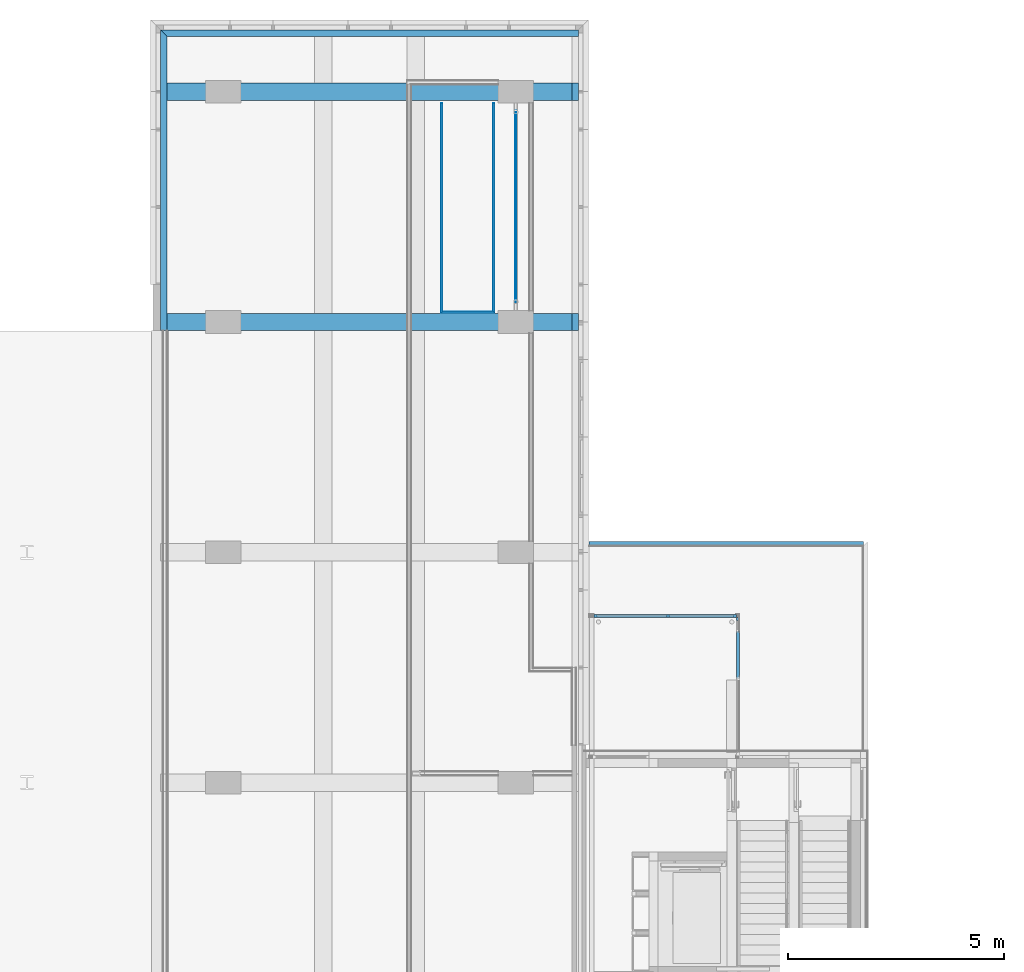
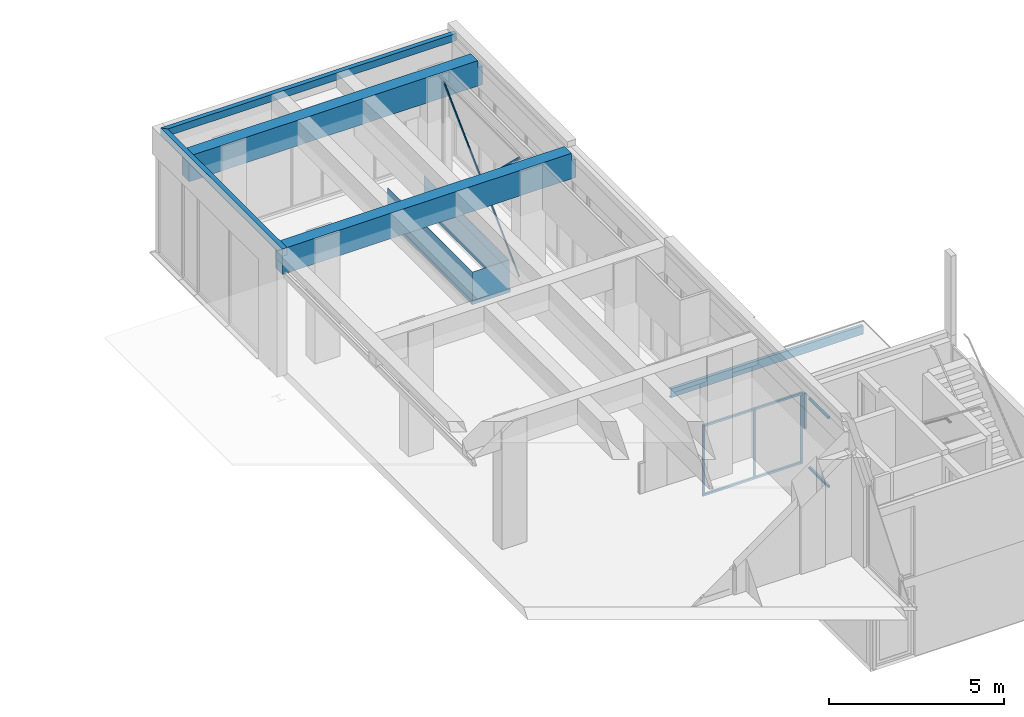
# One storey, part 28 of 117: 16 members, 7 beams, 3 elements without a shape of their own.
"""IFC2X3 building model written with IfcOpenShell, lengths in millimetres."""

import ifcopenshell
import ifcopenshell.guid

model = None  # the IFC model being written
_history = None  # IfcOwnerHistory: only IFC2X3 demands one
_inside = {}  # id of a spatial element -> (the spatial element, [elements in it])
_under = {}  # id of a project, library or spatial element -> (it, [spatial elements below it])
_declared = {}  # id of a project -> (the project, [libraries it declares])
_typed = {}  # id of a type object -> (the type object, [elements of that type])
_made_of = {}  # id of a material, layer set ... -> (it, [elements and type objects made of it])


def new_model(schema):
    """Start an empty IFC model of exactly this schema.

    Asked for "IFC4X3", IfcOpenShell would pick the latest addendum, in which some entities
    have other attributes; the version numbers below select the first issue.
    IFC2X3 requires an IfcOwnerHistory on every rooted entity: one is made here for all.
    """
    global model, _history
    if schema == "IFC4X3":
        model = ifcopenshell.file(schema_version=(4, 3, 0, 0))
    else:
        model = ifcopenshell.file(schema=schema)
    _inside.clear()
    _under.clear()
    _declared.clear()
    _typed.clear()
    _made_of.clear()
    _history = None
    if model.schema == "IFC2X3":
        org = make("IfcOrganization", Name="unknown")
        user = make(
            "IfcPersonAndOrganization",
            ThePerson=make("IfcPerson", FamilyName="unknown"),
            TheOrganization=org,
        )
        app = make(
            "IfcApplication",
            ApplicationDeveloper=org,
            Version="unknown",
            ApplicationFullName="unknown",
            ApplicationIdentifier="unknown",
        )
        _history = make(
            "IfcOwnerHistory",
            OwningUser=user,
            OwningApplication=app,
            ChangeAction="ADDED",
            CreationDate=0,
        )
    return model


def make(cls, **values):
    """One entity of the class cls with the attributes given. An attribute that is None is left unset."""
    return model.create_entity(
        cls, **{name: value for name, value in values.items() if value is not None}
    )


def entity(cls, *values):
    """Any entity or typed value of the class cls, its attributes in the order of the schema. None: left unset."""
    e = model.create_entity(cls)
    for i, value in enumerate(values):
        if value is not None:
            e[i] = value
    return e


def rooted(cls, **values):
    """An entity with a GlobalId (a new one), such as an element, a storey or a relation."""
    return make(cls, GlobalId=ifcopenshell.guid.new(), OwnerHistory=_history, **values)


def si_unit(unit_type, name, prefix=None):
    """IfcSIUnit, for example si_unit("LENGTHUNIT", "METRE", prefix="MILLI")."""
    return make("IfcSIUnit", UnitType=unit_type, Prefix=prefix, Name=name)


def converted_unit(unit_type, name, factor, base, dimensions=None, offset=None):
    """IfcConversionBasedUnit, such as the inch: factor (a typed value) times the base unit."""
    return make(
        "IfcConversionBasedUnit"
        if offset is None
        else "IfcConversionBasedUnitWithOffset",
        ConversionOffset=offset,
        Dimensions=None
        if dimensions is None
        else entity("IfcDimensionalExponents", *dimensions),
        UnitType=unit_type,
        Name=name,
        ConversionFactor=make(
            "IfcMeasureWithUnit", ValueComponent=factor, UnitComponent=base
        ),
    )


def derived_unit(unit_type, elements):
    """IfcDerivedUnit: a product of units, each with its exponent."""
    return make(
        "IfcDerivedUnit",
        Elements=[
            make("IfcDerivedUnitElement", Unit=unit, Exponent=power)
            for unit, power in elements
        ],
        UnitType=unit_type,
    )


def money_unit(currency):
    """IfcMonetaryUnit."""
    return make("IfcMonetaryUnit", Currency=currency)


def assignment(units):
    """IfcUnitAssignment: the units of a project."""
    return None if units is None else make("IfcUnitAssignment", Units=units)


def point(xyz):
    """IfcCartesianPoint."""
    return None if xyz is None else make("IfcCartesianPoint", Coordinates=xyz)


def direction(xyz):
    """IfcDirection."""
    return None if xyz is None else make("IfcDirection", DirectionRatios=xyz)


def frame(location, z_axis=None, x_axis=None):
    """IfcAxis2Placement3D, a coordinate frame: its origin and axes. An axis left out is left unset."""
    return make(
        "IfcAxis2Placement3D",
        Location=point(location),
        Axis=direction(z_axis),
        RefDirection=direction(x_axis),
    )


def origin_with_axes():
    """The frame at (0, 0, 0) with the z axis (0, 0, 1) and the x axis (1, 0, 0) written out."""
    return frame((0.0, 0.0, 0.0), z_axis=(0.0, 0.0, 1.0), x_axis=(1.0, 0.0, 0.0))


def place(relative_to, where):
    """IfcLocalPlacement: puts the frame where relative to a parent placement (None: the world)."""
    return make(
        "IfcLocalPlacement", PlacementRelTo=relative_to, RelativePlacement=where
    )


def context(
    kind, dimensions, precision=None, world=None, true_north=None, identifier=None
):
    """IfcGeometricRepresentationContext, for example the 3D "Model" context."""
    return make(
        "IfcGeometricRepresentationContext",
        ContextIdentifier=identifier,
        ContextType=kind,
        CoordinateSpaceDimension=dimensions,
        Precision=precision,
        WorldCoordinateSystem=world,
        TrueNorth=true_north,
    )


def subcontext(parent, identifier, kind, view, scale=None):
    """IfcGeometricRepresentationSubContext, for example "Body" below "Model"."""
    return make(
        "IfcGeometricRepresentationSubContext",
        ContextIdentifier=identifier,
        ContextType=kind,
        ParentContext=parent,
        TargetScale=scale,
        TargetView=view,
    )


def project(units=None, contexts=None):
    """IfcProject with its units and contexts."""
    return rooted(
        "IfcProject",
        Name="project",
        RepresentationContexts=contexts,
        UnitsInContext=assignment(units),
    )


def spatial(cls, under=None, at=None, **own):
    """A site, building, storey or space (cls), placed at a placement, below another one or the project."""
    s = rooted(cls, ObjectPlacement=at, **own)
    if under is not None:
        _under.setdefault(under.id(), (under, []))[1].append(s)
    return s


def faces_of(points, faces, orient=None, outer=None):
    """IfcFace entities. A face is a list of loops; a loop is a list of indices into points, from 0.

    orient and outer hold one flag for each loop. By default every Orientation is true, the
    first loop of a face is its IfcFaceOuterBound and the others are IfcFaceBound.
    """
    made = []
    for i, loops in enumerate(faces):
        bounds = []
        for j, loop in enumerate(loops):
            is_outer = j == 0 if outer is None else outer[i][j]
            bounds.append(
                make(
                    "IfcFaceOuterBound" if is_outer else "IfcFaceBound",
                    Bound=make("IfcPolyLoop", Polygon=[points[k] for k in loop]),
                    Orientation=True if orient is None else orient[i][j],
                )
            )
        made.append(make("IfcFace", Bounds=bounds))
    return made


def faceted_brep(points, faces, orient=None, outer=None, voids=None):
    """IfcFacetedBrep: a solid bounded by flat faces; with voids (closed shells), ...WithVoids."""
    shared = [point(p) for p in points]
    hull = make("IfcClosedShell", CfsFaces=faces_of(shared, faces, orient, outer))
    if voids is None:
        return make("IfcFacetedBrep", Outer=hull)
    return make(
        "IfcFacetedBrepWithVoids",
        Outer=hull,
        Voids=[
            make(cls, CfsFaces=faces_of(shared, fs, o, b)) for cls, fs, o, b in voids
        ],
    )


def shape(context_of_items, identifier, shape_type, items):
    """IfcShapeRepresentation: the items that make up one representation, for example the "Body"."""
    return make(
        "IfcShapeRepresentation",
        ContextOfItems=context_of_items,
        RepresentationIdentifier=identifier,
        RepresentationType=shape_type,
        Items=items,
    )


def material(Name=None, Category=None):
    """IfcMaterial."""
    return make("IfcMaterial", Name=Name, Category=Category)


def made_of(thing, what):
    """Note that an element or type object is made of a material, layer set ...; save() writes the relation."""
    if what is not None:
        _made_of.setdefault(what.id(), (what, []))[1].append(thing)
    return thing


def type_object(cls, material=None, **own):
    """A type object (cls), such as IfcWallType, which elements share."""
    return made_of(rooted(cls, **own), material)


def element(
    cls,
    number,
    at=None,
    inside=None,
    cuts=None,
    type_object=None,
    material=None,
    context=None,
    identifier="Body",
    shape_type=None,
    held_by="IfcProductDefinitionShape",
    body=None,
    shapes=None,
    **own,
):
    """One element of the class cls, such as IfcWall. Its Tag is "e" and its number.

    at: its placement. inside: the storey or other place that contains it. cuts: it is an
    opening in that element (IfcRelVoidsElement). A single representation is given by context,
    identifier, shape_type and body (its items); several are given by shapes. held_by: the class
    of the entity that holds the representations. save() writes the other relations.
    """
    e = rooted(cls, Tag="e%d" % number, ObjectPlacement=at, **own)
    if body is not None:
        shapes = [shape(context, identifier, shape_type, body)]
    if shapes is not None:
        e.Representation = make(held_by, Representations=shapes)
    if inside is not None:
        _inside.setdefault(inside.id(), (inside, []))[1].append(e)
    if cuts is not None:
        rooted(
            "IfcRelVoidsElement", RelatingBuildingElement=cuts, RelatedOpeningElement=e
        )
    if type_object is not None:
        _typed.setdefault(type_object.id(), (type_object, []))[1].append(e)
    return made_of(e, material)


def aggregate(whole, parts):
    """IfcRelAggregates: a whole, such as a stair, and the parts it consists of."""
    return rooted("IfcRelAggregates", RelatingObject=whole, RelatedObjects=parts)


def save(model, path):
    """Write the relations noted so far, then the file.

    IfcRelAggregates (storeys below a building ...), IfcRelContainedInSpatialStructure (elements
    in a storey), IfcRelDefinesByType, IfcRelAssociatesMaterial and IfcRelDeclares: one each for
    every whole, place, type object, material and project.
    """
    for whole, parts in _under.values():
        aggregate(whole, parts)
    for where, things in _inside.values():
        rooted(
            "IfcRelContainedInSpatialStructure",
            RelatedElements=things,
            RelatingStructure=where,
        )
    for kind, things in _typed.values():
        rooted("IfcRelDefinesByType", RelatedObjects=things, RelatingType=kind)
    for what, things in _made_of.values():
        rooted("IfcRelAssociatesMaterial", RelatedObjects=things, RelatingMaterial=what)
    for by, libraries in _declared.values():
        rooted("IfcRelDeclares", RelatingContext=by, RelatedDefinitions=libraries)
    model.write(path)


model = new_model("IFC2X3")

# Units and contexts
model_context = context("Model", 3, precision=0.01, world=origin_with_axes(), true_north=direction((0.0, 1.0)))
body_context = subcontext(model_context, "Body", "Model", "MODEL_VIEW")
ifc_project = project(units=[si_unit("LENGTHUNIT", "METRE", prefix="MILLI"), si_unit("AREAUNIT", "SQUARE_METRE"), si_unit("VOLUMEUNIT", "CUBIC_METRE"), converted_unit("PLANEANGLEUNIT", "DEGREE", entity("IfcPlaneAngleMeasure", 0.0174532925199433), si_unit("PLANEANGLEUNIT", "RADIAN"), dimensions=[0, 0, 0, 0, 0, 0, 0]), money_unit("EUR"), converted_unit("TIMEUNIT", "Year", entity("IfcTimeMeasure", 31557600.0), si_unit("TIMEUNIT", "SECOND"), dimensions=[0, 0, 1, 0, 0, 0, 0]), si_unit("MASSUNIT", "GRAM", prefix="KILO"), si_unit("THERMODYNAMICTEMPERATUREUNIT", "DEGREE_CELSIUS"), si_unit("LUMINOUSINTENSITYUNIT", "LUMEN"), si_unit("ENERGYUNIT", "JOULE", prefix="MEGA"), derived_unit("THERMALCONDUCTANCEUNIT", [(si_unit("POWERUNIT", "WATT"), 1), (si_unit("LENGTHUNIT", "METRE"), -1), (si_unit("THERMODYNAMICTEMPERATUREUNIT", "KELVIN"), -1)]), derived_unit("SPECIFICHEATCAPACITYUNIT", [(si_unit("ENERGYUNIT", "JOULE"), 1), (si_unit("MASSUNIT", "GRAM", prefix="KILO"), -1), (si_unit("THERMODYNAMICTEMPERATUREUNIT", "KELVIN"), -1)]), derived_unit("MASSDENSITYUNIT", [(si_unit("MASSUNIT", "GRAM", prefix="KILO"), 1), (si_unit("VOLUMEUNIT", "CUBIC_METRE"), -1)])], contexts=[model_context])

# Site, building, storey
site_placement = place(None, origin_with_axes())
site = spatial("IfcSite", under=ifc_project, at=site_placement, Name="Site", CompositionType="ELEMENT")
building_placement = place(site_placement, origin_with_axes())
building = spatial("IfcBuilding", under=site, at=building_placement, Name="Naam gebouw", CompositionType="ELEMENT")
storey_placement = place(building_placement, frame((0.0, 0.0, 4150.0), z_axis=(0.0, 0.0, 1.0), x_axis=(1.0, 0.0, 0.0)))
storey = spatial("IfcBuildingStorey", under=building, at=storey_placement, Name="1e verdieping N", CompositionType="ELEMENT", Elevation=4150.0)

# Railing, members
railing_type = type_object("IfcRailingType", Name="Railing Type", PredefinedType="NOTDEFINED")
railing_placement = place(storey_placement, frame((28125.9999950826, 54343.41242510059, -115.0000000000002), z_axis=(0.0, 0.0, 1.0), x_axis=(1.0, 0.0, 0.0)))
railing = element("IfcRailing", 1, at=railing_placement, inside=storey, type_object=railing_type, Name="_Reling-x", PredefinedType="NOTDEFINED")
ifc_material_1 = material(Name="Metaal - Aluminium")
member_type_1 = type_object("IfcMemberType", Name="IfcMember", PredefinedType="USERDEFINED")
member_1_placement = place(railing_placement, frame((-30.00000000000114, -2418.749999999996, -7.355608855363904), z_axis=(0.0, 0.0, 1.0), x_axis=(1.0, 0.0, 0.0)))
member_1 = element("IfcMember", 2, at=member_1_placement, type_object=member_type_1, material=ifc_material_1, Name="_Regel-x", context=body_context, shape_type="Brep", body=[
    faceted_brep([(-30.00000000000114, 2418.749999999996, 122.3556088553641), (-30.00000000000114, 2418.749999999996, 7.355608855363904), (-30.00000000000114, -2388.749999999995, 7.355608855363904), (-30.00000000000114, -2388.749999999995, 122.3556088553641), (30.00000000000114, 2418.749999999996, 122.3556088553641), (30.00000000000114, 2418.749999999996, 7.355608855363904), (30.00000000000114, -2448.749999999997, 7.355608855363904), (30.00000000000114, -2448.749999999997, 122.3556088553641)], [[[0, 1, 2, 3]], [[0, 4, 5, 1]], [[1, 5, 6, 2]], [[3, 2, 6, 7]], [[4, 0, 3, 7]], [[5, 4, 7, 6]]]),
])
member_2_placement = place(railing_placement, frame((-629.9999975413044, -4837.499999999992, -7.355608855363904), z_axis=(0.0, 0.0, 1.0), x_axis=(1.0, 0.0, 0.0)))
member_2 = element("IfcMember", 3, at=member_2_placement, type_object=member_type_1, material=ifc_material_1, Name="_Regel-x", context=body_context, shape_type="Brep", body=[
    faceted_brep([(569.9999975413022, 30.00000000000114, 122.3556088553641), (569.9999975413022, 30.00000000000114, 7.355608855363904), (-569.9999975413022, 30.00000000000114, 7.355608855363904), (-569.9999975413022, 30.00000000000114, 122.3556088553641), (629.9999975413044, -30.00000000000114, 122.3556088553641), (629.9999975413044, -30.00000000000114, 7.355608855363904), (-629.9999975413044, -30.00000000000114, 7.355608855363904), (-629.9999975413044, -30.00000000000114, 122.3556088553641)], [[[0, 1, 2, 3]], [[0, 4, 5, 1]], [[1, 5, 6, 2]], [[3, 2, 6, 7]], [[4, 0, 3, 7]], [[5, 4, 7, 6]]]),
])
member_3_placement = place(railing_placement, frame((-1229.999995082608, -2418.749999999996, -7.355608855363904), z_axis=(0.0, 0.0, 1.0), x_axis=(1.0, 0.0, 0.0)))
member_3 = element("IfcMember", 4, at=member_3_placement, type_object=member_type_1, material=ifc_material_1, Name="_Regel-x", context=body_context, shape_type="Brep", body=[
    faceted_brep([(30.00000000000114, -2388.749999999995, 122.3556088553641), (30.00000000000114, -2388.749999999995, 7.355608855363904), (30.00000000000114, 2418.749999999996, 7.355608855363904), (30.00000000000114, 2418.749999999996, 122.3556088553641), (-30.00000000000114, -2448.749999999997, 122.3556088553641), (-30.00000000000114, -2448.749999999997, 7.355608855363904), (-30.00000000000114, 2418.749999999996, 7.355608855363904), (-30.00000000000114, 2418.749999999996, 122.3556088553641)], [[[0, 1, 2, 3]], [[0, 4, 5, 1]], [[1, 5, 6, 2]], [[3, 2, 6, 7]], [[4, 0, 3, 7]], [[5, 4, 7, 6]]]),
])

# Beams
ifc_material_2 = material(Name="ALG - CONSTRUCTIEF KOLOM")
beam_type_1 = type_object("IfcBeamType", Name="ALG - CONSTRUCTIEF KOLOM 400 x 890", PredefinedType="BEAM")
beam_1_placement = place(storey_placement, frame((20386.0, 54605.9124251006, 4340.0), z_axis=(0.0, 0.0, 1.0), x_axis=(0.0, -1.0, 0.0)))
element("IfcBeam", 5, at=beam_1_placement, inside=storey, type_object=beam_type_1, material=ifc_material_2, Name="_Balk-x", ObjectType="BEAM", context=body_context, shape_type="Brep", body=[
    faceted_brep([(-200.0000000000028, 9669.999999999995, -889.9999999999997), (-200.0000000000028, 0.0, -889.9999999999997), (-200.0000000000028, 0.0, -250.0000000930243), (-200.0000000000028, 149.9999999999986, -250.0000000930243), (-200.0000000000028, 149.9999999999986, 0.0), (-200.0000000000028, 9520.0, 0.0), (-200.0000000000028, 9520.0, -250.0000000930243), (-200.0000000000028, 9669.999999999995, -250.0000000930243), (200.0000000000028, 9669.999999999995, -889.9999999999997), (200.0000000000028, 0.0, -889.9999999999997), (200.0000000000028, 0.0, -250.0000000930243), (200.0000000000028, 149.9999999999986, -250.0000000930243), (200.0000000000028, 149.9999999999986, 0.0), (200.0000000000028, 9520.0, 0.0), (200.0000000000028, 9520.0, -250.0000000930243), (200.0000000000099, 9669.999999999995, -250.0000000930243)], [[[0, 1, 2, 3, 4, 5, 6, 7]], [[0, 8, 9, 1]], [[1, 9, 10, 2]], [[10, 11, 3, 2]], [[3, 11, 12, 4]], [[13, 5, 4, 12]], [[5, 13, 14, 6]], [[7, 6, 14, 15]], [[15, 8, 0, 7]], [[13, 12, 11, 10, 9, 8, 15, 14]]]),
])
beam_2_placement = place(storey_placement, frame((20386.0, 49275.9124251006, 4340.0), z_axis=(0.0, 0.0, 1.0), x_axis=(0.0, -1.0, 0.0)))
element("IfcBeam", 6, at=beam_2_placement, inside=storey, type_object=beam_type_1, material=ifc_material_2, Name="_Balk-x", ObjectType="BEAM", context=body_context, shape_type="Brep", body=[
    faceted_brep([(-200.0000000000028, 9669.999999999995, -889.9999999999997), (-200.0000000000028, 0.0, -889.9999999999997), (-200.0000000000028, 0.0, -250.0000000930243), (-200.0000000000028, 149.9999999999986, -250.0000000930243), (-200.0000000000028, 149.9999999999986, 0.0), (-200.0000000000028, 9520.0, 0.0), (-200.0000000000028, 9520.0, -250.0000000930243), (-200.0000000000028, 9669.999999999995, -250.0000000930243), (200.0000000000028, 9669.999999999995, -889.9999999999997), (200.0000000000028, 0.0, -889.9999999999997), (199.9999487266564, 0.0, -250.0000000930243), (199.9999487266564, 149.9999999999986, -250.0000000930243), (199.9999487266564, 149.9999999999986, 0.0), (200.0000000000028, 9520.0, 0.0), (200.0000000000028, 9520.0, -250.0000000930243), (200.0000000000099, 9669.999999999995, -250.0000000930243)], [[[0, 1, 2, 3, 4, 5, 6, 7]], [[0, 8, 9, 1]], [[1, 9, 10, 2]], [[10, 11, 3, 2]], [[3, 11, 12, 4]], [[13, 5, 4, 12]], [[5, 13, 14, 6]], [[7, 6, 14, 15]], [[15, 8, 0, 7]], [[13, 12, 11, 10, 9, 8, 15, 14]]]),
])
ifc_material_3 = material(Name="staal")
beam_type_2 = type_object("IfcBeamType", Name="NLRS_28_SF_staal - balk - UNP:UNP300", PredefinedType="BEAM")
beam_3_placement = place(storey_placement, frame((30303.70000065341, 44150.57909296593, -1150.000000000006), z_axis=(0.0, 0.0, 1.0), x_axis=(0.0, -1.0, 0.0)))
element("IfcBeam", 7, at=beam_3_placement, inside=storey, type_object=beam_type_2, material=ifc_material_3, Name="NLRS_28_SF_staal - balk - UNP:UNP300", ObjectType="BEAM", context=body_context, shape_type="Brep", body=[
    faceted_brep([(54.66666666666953, 0.0, 149.9999999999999), (54.66666666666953, 6347.299999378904, 149.9999999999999), (-45.33333325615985, 6347.299999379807, 149.9999999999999), (-45.33333333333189, 0.0, 149.9999999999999), (54.66666666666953, 0.0, -149.9999999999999), (54.66666666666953, 6347.299999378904, -149.9999999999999), (-42.99018758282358, 6347.2999993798, 138.4431457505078), (-45.33333325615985, 6347.299999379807, 144.0999999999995), (-45.33333325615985, 6347.299999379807, -149.9999999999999), (-45.33333325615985, 6347.299999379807, -144.0999999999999), (-42.99018758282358, 6347.299999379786, -138.4431457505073), (-37.33333333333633, 6347.299999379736, -136.0999999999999), (28.66666666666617, 6347.299999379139, -132.8), (36.66666666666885, 6347.299999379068, -130.6564064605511), (42.52307312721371, 6347.299999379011, -124.8), (44.66666666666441, 6347.29999937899, -116.8), (44.66666666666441, 6347.299999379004, 116.8), (42.52307312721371, 6347.299999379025, 124.7999999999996), (36.66666666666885, 6347.299999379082, 130.6564064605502), (28.66666666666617, 6347.299999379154, 132.7999999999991), (-37.33333333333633, 6347.29999937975, 136.1000000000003), (-45.33333333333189, 0.0, 144.0999999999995), (-42.99018758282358, 0.0, 138.4431457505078), (-37.33333333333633, 0.0, 136.1000000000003), (28.66666666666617, 0.0, 132.7999999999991), (36.66666666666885, 0.0, 130.6564064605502), (42.52307312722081, 0.0, 124.7999999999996), (44.66666666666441, 0.0, 116.8), (44.66666666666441, 0.0, -116.8), (42.52307312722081, 0.0, -124.8), (36.66666666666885, 0.0, -130.6564064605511), (28.66666666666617, 0.0, -132.8), (-37.33333333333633, 0.0, -136.0999999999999), (-42.99018758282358, 0.0, -138.4431457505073), (-45.33333333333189, 0.0, -144.0999999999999), (-45.33333333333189, 0.0, -149.9999999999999)], [[[0, 1, 2, 3]], [[4, 5, 1, 0]], [[6, 7, 2, 1, 5, 8, 9, 10, 11, 12, 13, 14, 15, 16, 17, 18, 19, 20]], [[3, 2, 7, 21]], [[4, 0, 3, 21, 22, 23, 24, 25, 26, 27, 28, 29, 30, 31, 32, 33, 34, 35]], [[35, 8, 5, 4]], [[21, 7, 6, 22]], [[34, 9, 8, 35]], [[33, 10, 9, 34]], [[32, 11, 10, 33]], [[31, 12, 11, 32]], [[30, 13, 12, 31]], [[29, 14, 13, 30]], [[28, 15, 14, 29]], [[27, 16, 15, 28]], [[26, 17, 16, 27]], [[25, 18, 17, 26]], [[24, 19, 18, 25]], [[23, 20, 19, 24]], [[22, 6, 20, 23]]]),
])

# Member
ifc_material_4 = material(Name="Glas")
member_type_2 = type_object("IfcMemberType", Name="IfcMember", PredefinedType="PLATE")
member_4_placement = place(railing_placement, frame((-30.00000000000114, -2418.749999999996, 57.50000000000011), z_axis=(0.0, 0.0, 1.0), x_axis=(1.0, 0.0, 0.0)))
member_4 = element("IfcMember", 8, at=member_4_placement, type_object=member_type_2, material=ifc_material_4, Name="_Paneel-x", ObjectType="PLATE", context=body_context, shape_type="Brep", body=[
    faceted_brep([(9.999999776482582, 2418.750000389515, -3.895159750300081e-07), (9.999999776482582, 2418.750000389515, 1057.499999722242), (9.999999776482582, -2428.749999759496, 1057.499999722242), (9.999999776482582, -2428.749999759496, -3.895159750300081e-07), (-9.999999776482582, 2418.750000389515, 1057.499999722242), (-9.999999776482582, 2418.750000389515, -3.895159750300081e-07), (-9.999999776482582, -2408.750000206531, 1057.499999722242), (-9.999999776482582, -2408.750000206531, -3.895159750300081e-07)], [[[0, 1, 2, 3]], [[4, 1, 0, 5]], [[2, 1, 4, 6]], [[3, 2, 6, 7]], [[5, 0, 3, 7]], [[6, 4, 5, 7]]]),
])

member_5_placement = place(railing_placement, frame((-629.9999975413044, -4837.499999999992, 57.50000000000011), z_axis=(0.0, 0.0, 1.0), x_axis=(1.0, 0.0, 0.0)))
member_5 = element("IfcMember", 9, at=member_5_placement, type_object=member_type_2, material=ifc_material_4, Name="_Paneel-x", ObjectType="PLATE", context=body_context, shape_type="Brep", body=[
    faceted_brep([(609.9999977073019, -9.999999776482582, -3.895159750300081e-07), (609.9999977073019, -9.999999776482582, 1057.499999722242), (-609.9999973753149, -9.999999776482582, 1057.499999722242), (-609.9999973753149, -9.999999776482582, -3.895159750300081e-07), (589.9999981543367, 9.999999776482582, 1057.499999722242), (589.9999981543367, 9.999999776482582, -3.895159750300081e-07), (-589.9999978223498, 9.999999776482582, 1057.499999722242), (-589.9999978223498, 9.999999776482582, -3.895159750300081e-07)], [[[0, 1, 2, 3]], [[4, 1, 0, 5]], [[2, 1, 4, 6]], [[3, 2, 6, 7]], [[5, 0, 3, 7]], [[6, 4, 5, 7]]]),
])

member_6_placement = place(railing_placement, frame((-1229.999995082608, -2418.749999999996, 57.50000000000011), z_axis=(0.0, 0.0, 1.0), x_axis=(1.0, 0.0, 0.0)))
member_6 = element("IfcMember", 10, at=member_6_placement, type_object=member_type_2, material=ifc_material_4, Name="_Paneel-x", ObjectType="PLATE", context=body_context, shape_type="Brep", body=[
    faceted_brep([(-9.999999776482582, -2428.750000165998, -3.895159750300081e-07), (-9.999999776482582, -2428.750000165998, 1057.499999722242), (-9.999999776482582, 2418.749999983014, 1057.499999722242), (-9.999999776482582, 2418.749999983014, -3.895159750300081e-07), (9.999999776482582, -2408.750000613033, 1057.499999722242), (9.999999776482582, -2408.750000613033, -3.895159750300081e-07), (9.999999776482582, 2418.749999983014, 1057.499999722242), (9.999999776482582, 2418.749999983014, -3.895159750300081e-07)], [[[0, 1, 2, 3]], [[4, 1, 0, 5]], [[2, 1, 4, 6]], [[3, 2, 6, 7]], [[5, 0, 3, 7]], [[6, 4, 5, 7]]]),
])

aggregate(railing, [member_1, member_4, member_2, member_5, member_3, member_6])

# Beams
ifc_material_5 = material(Name="Metaal - Staal C")
beam_type_3 = type_object("IfcBeamType", Name="Metaal - Staal C 10 x 100", PredefinedType="BEAM")
beam_4_placement = place(storey_placement, frame((28598.49999999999, 54093.41242510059, 80.00000000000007), z_axis=(0.0, 0.0, 1.0), x_axis=(-1.0, 0.0, 0.0)))
element("IfcBeam", 11, at=beam_4_placement, inside=storey, type_object=beam_type_3, material=ifc_material_5, Name="_Balk-x", ObjectType="BEAM", context=body_context, shape_type="Brep", body=[
    faceted_brep([(-4.999999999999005, 69.66141807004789, -71.74459444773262), (-4.999999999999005, 4374.661418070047, 4108.255405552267), (4.999999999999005, 4374.661418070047, 4108.255405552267), (4.999999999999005, 69.66141807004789, -71.74459444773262), (-4.999999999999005, 0.0, 0.0), (-4.999999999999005, 4305.0, 4180.000000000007), (4.999999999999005, 4305.0, 4180.000000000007), (4.999999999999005, 0.0, 0.0)], [[[0, 1, 2, 3]], [[4, 5, 1, 0]], [[2, 1, 5, 6]], [[3, 2, 6, 7]], [[4, 0, 3, 7]], [[7, 6, 5, 4]]]),
])
beam_5_placement = place(storey_placement, frame((28613.49999999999, 49788.4124251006, 80.00000000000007), z_axis=(0.0, 0.0, 1.0), x_axis=(1.0, 0.0, 0.0)))
element("IfcBeam", 12, at=beam_5_placement, inside=storey, type_object=beam_type_3, material=ifc_material_5, Name="_Balk-x", ObjectType="BEAM", context=body_context, shape_type="Brep", body=[
    faceted_brep([(-4.999999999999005, 69.66141807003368, -71.74459444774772), (-4.999999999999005, 4374.661418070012, 4108.255405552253), (4.999999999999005, 4374.661418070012, 4108.255405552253), (4.999999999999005, 69.66141807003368, -71.74459444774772), (-4.999999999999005, 0.0, 0.0), (-4.999999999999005, 4304.999999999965, 4179.999999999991), (4.999999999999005, 4304.999999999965, 4179.999999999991), (4.999999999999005, 0.0, 0.0)], [[[0, 1, 2, 3]], [[4, 5, 1, 0]], [[2, 1, 5, 6]], [[3, 2, 6, 7]], [[4, 0, 3, 7]], [[7, 6, 5, 4]]]),
])
beam_type_4 = type_object("IfcBeamType", Name="ALG - CONSTRUCTIEF KOLOM 150 x 250", PredefinedType="BEAM")
beam_6_placement = place(storey_placement, frame((20461.0, 55960.9155671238, 4340.0), z_axis=(0.0, 0.0, 1.0), x_axis=(0.0, -1.0, 0.0)))
element("IfcBeam", 13, at=beam_6_placement, inside=storey, type_object=beam_type_4, material=ifc_material_2, Name="_Balk-x", ObjectType="BEAM", context=body_context, shape_type="Brep", body=[
    faceted_brep([(75.00000000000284, 74.99999999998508, -250.0000000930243), (-75.00000000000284, -75.0000000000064, -250.0000000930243), (-75.00000000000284, 9594.999999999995, -250.0000000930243), (75.00000000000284, 9594.999999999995, -250.0000000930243), (75.00000000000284, 74.99999999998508, 0.0), (-75.00000000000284, -75.0000000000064, 0.0), (-75.00000000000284, 9594.999999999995, 0.0), (75.00000000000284, 9594.999999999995, 0.0)], [[[0, 1, 2, 3]], [[4, 5, 1, 0]], [[1, 5, 6, 2]], [[7, 3, 2, 6]], [[4, 0, 3, 7]], [[5, 4, 7, 6]]]),
])
beam_7_placement = place(storey_placement, frame((20461.0, 49075.91247637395, 4340.0), z_axis=(0.0, 0.0, 1.0), x_axis=(1.0, 0.0, 0.0)))
element("IfcBeam", 14, at=beam_7_placement, inside=storey, type_object=beam_type_4, material=ifc_material_2, Name="_Balk-x", ObjectType="BEAM", context=body_context, shape_type="Brep", body=[
    faceted_brep([(74.99999999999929, 0.0, -250.0000000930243), (-74.99999999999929, 0.0, -250.0000000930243), (-74.99999999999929, 6960.003090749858, -250.0000000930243), (74.99999999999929, 6810.003090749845, -250.0000000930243), (74.99999999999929, 0.0, 0.0), (-74.99999999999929, 0.0, 0.0), (-74.99999999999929, 6960.003090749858, 0.0), (74.99999999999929, 6810.003090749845, 0.0)], [[[0, 1, 2, 3]], [[4, 5, 1, 0]], [[1, 5, 6, 2]], [[7, 3, 2, 6]], [[4, 0, 3, 7]], [[5, 4, 7, 6]]]),
])

# Curtain wall, members
curtain_wall_type = type_object("IfcCurtainWallType", Name="Curtain Wall:21_CW_alu kozijn 070x065", PredefinedType="NOTDEFINED")
curtain_wall_1_placement = place(storey_placement, frame((0.0, 0.0, -4150.0), z_axis=(0.0, 0.0, 1.0), x_axis=(1.0, 0.0, 0.0)))
curtain_wall_1 = element("IfcCurtainWall", 15, at=curtain_wall_1_placement, inside=storey, type_object=curtain_wall_type, Name="Curtain Wall:21_CW_alu kozijn 070x065", ObjectType="Curtain Wall:21_CW_alu kozijn 070x065")
ifc_material_6 = material(Name="RAL 7024 - Grafietgrijs")
member_type_3 = type_object("IfcMemberType", Name="Rectangular Mullion:31_alu_070x065 RAL 7024", PredefinedType="MULLION")
member_7_placement = place(curtain_wall_1_placement, frame((32125.50000001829, 42476.91242629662, 2849.999999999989), z_axis=(0.0, 0.0, 1.0), x_axis=(0.0, 1.0, 0.0)))
member_7 = element("IfcMember", 16, at=member_7_placement, type_object=member_type_3, material=ifc_material_6, Name="Rectangular Mullion:31_alu_070x065 RAL 7024", ObjectType="MULLION", context=body_context, shape_type="Brep", body=[
    faceted_brep([(32.5000000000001, -1586.5, 0.0), (32.5000000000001, -1586.5, -70.0), (32.49999999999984, 0.0, -70.0), (32.49999999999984, 0.0, 0.0), (-32.49999999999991, -1586.5, 0.0), (-32.49999999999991, -1586.5, -70.0), (-32.50000000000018, 0.0, -70.0), (-32.50000000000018, 0.0, 0.0)], [[[0, 1, 2, 3]], [[0, 4, 5, 1]], [[1, 5, 6, 2]], [[3, 2, 6, 7]], [[4, 0, 3, 7]], [[5, 4, 7, 6]]]),
])
member_type_4 = type_object("IfcMemberType", Name="Rectangular Mullion:31_alu_070x065 RAL 7024", PredefinedType="MULLION")
member_8_placement = place(curtain_wall_1_placement, frame((32125.50000001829, 42476.91242629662, 379.9999999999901), z_axis=(0.0, 0.0, 1.0), x_axis=(0.0, 1.0, 0.0)))
member_8 = element("IfcMember", 17, at=member_8_placement, type_object=member_type_4, material=ifc_material_6, Name="Rectangular Mullion:31_alu_070x065 RAL 7024", ObjectType="MULLION", context=body_context, shape_type="Brep", body=[
    faceted_brep([(32.49999999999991, 1714.50000000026, 0.0), (32.49999999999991, 1714.50000000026, 70.0), (32.50000000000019, 0.0, 70.0), (32.50000000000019, 0.0, 0.0), (-32.50000000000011, 1714.50000000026, 0.0), (-32.50000000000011, 1714.50000000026, 70.0), (-32.49999999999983, 0.0, 70.0), (-32.49999999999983, 0.0, 0.0)], [[[0, 1, 2, 3]], [[0, 4, 5, 1]], [[1, 5, 6, 2]], [[3, 2, 6, 7]], [[4, 0, 3, 7]], [[5, 4, 7, 6]]]),
])
member_type_5 = type_object("IfcMemberType", Name="Rectangular Mullion:31_alu_070x065 RAL 7024", PredefinedType="MULLION")
member_9_placement = place(curtain_wall_1_placement, frame((32125.50000001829, 42476.91242629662, 450.0000000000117), z_axis=(0.0, 0.0, 1.0), x_axis=(-1.0, 0.0, 0.0)))
member_9 = element("IfcMember", 18, at=member_9_placement, type_object=member_type_5, material=ifc_material_6, Name="Rectangular Mullion:31_alu_070x065 RAL 7024", ObjectType="MULLION", context=body_context, shape_type="Brep", body=[
    faceted_brep([(35.00000000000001, -32.49999999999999, 2330.0), (-34.99999999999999, -32.50000000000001, 2330.0), (-34.99999999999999, -32.50000000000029, 0.0), (35.00000000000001, -32.50000000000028, 0.0), (34.99999999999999, 32.50000000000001, 2330.0), (-35.00000000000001, 32.49999999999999, 2330.0), (-35.00000000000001, 32.49999999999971, 0.0), (34.99999999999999, 32.49999999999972, 0.0)], [[[0, 1, 2, 3]], [[0, 4, 5, 1]], [[1, 5, 6, 2]], [[3, 2, 6, 7]], [[4, 0, 3, 7]], [[5, 4, 7, 6]]]),
])
member_type_6 = type_object("IfcMemberType", Name="Rectangular Mullion:31_alu_070x065 RAL 7024", PredefinedType="MULLION")
member_10_placement = place(curtain_wall_1_placement, frame((30481.00000005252, 42476.91242629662, 2849.999999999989), z_axis=(0.0, 0.0, 1.0), x_axis=(0.0, 1.0, 0.0)))
member_10 = element("IfcMember", 19, at=member_10_placement, type_object=member_type_6, material=ifc_material_6, Name="Rectangular Mullion:31_alu_070x065 RAL 7024", ObjectType="MULLION", context=body_context, shape_type="Brep", body=[
    faceted_brep([(32.5000000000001, -1644.50000000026, 0.0), (32.5000000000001, -1644.50000000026, -70.0), (32.49999999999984, 0.0, -70.0), (32.49999999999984, 0.0, 0.0), (-32.49999999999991, -1644.50000000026, 0.0), (-32.49999999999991, -1644.50000000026, -70.0), (-32.50000000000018, 0.0, -70.0), (-32.50000000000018, 0.0, 0.0)], [[[0, 1, 2, 3]], [[0, 4, 5, 1]], [[1, 5, 6, 2]], [[3, 2, 6, 7]], [[4, 0, 3, 7]], [[5, 4, 7, 6]]]),
])
member_type_7 = type_object("IfcMemberType", Name="Rectangular Mullion:31_alu_070x065 RAL 7024", PredefinedType="MULLION")
member_11_placement = place(curtain_wall_1_placement, frame((33642.0000000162, 42476.91242629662, 379.9999999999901), z_axis=(0.0, 0.0, 1.0), x_axis=(0.0, 1.0, 0.0)))
member_11 = element("IfcMember", 20, at=member_11_placement, type_object=member_type_7, material=ifc_material_6, Name="Rectangular Mullion:31_alu_070x065 RAL 7024", ObjectType="MULLION", context=body_context, shape_type="Brep", body=[
    faceted_brep([(32.49999999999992, 1516.5, 0.0), (32.49999999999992, 1516.5, 70.0), (32.50000000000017, 0.0, 70.0), (32.50000000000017, 0.0, 0.0), (-32.50000000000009, 1516.5, 0.0), (-32.50000000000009, 1516.5, 70.0), (-32.49999999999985, 0.0, 70.0), (-32.49999999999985, 0.0, 0.0)], [[[0, 1, 2, 3]], [[0, 4, 5, 1]], [[1, 5, 6, 2]], [[3, 2, 6, 7]], [[4, 0, 3, 7]], [[5, 4, 7, 6]]]),
])
member_type_8 = type_object("IfcMemberType", Name="Rectangular Mullion:31_alu_070x065 RAL 7024", PredefinedType="MULLION")
member_12_placement = place(curtain_wall_1_placement, frame((33712.00000005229, 42476.91242629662, 2779.999999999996), z_axis=(0.0, 0.0, 1.0), x_axis=(1.0, 0.0, 0.0)))
member_12 = element("IfcMember", 21, at=member_12_placement, type_object=member_type_8, material=ifc_material_6, Name="Rectangular Mullion:31_alu_070x065 RAL 7024", ObjectType="MULLION", context=body_context, shape_type="Brep", body=[
    faceted_brep([(0.0, 32.5, -2400.0), (-70.0, 32.50000000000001, -2400.0), (-70.0, 32.50000000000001, 0.0), (0.0, 32.5, 0.0), (0.0, -32.50000000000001, -2400.0), (-70.0, -32.5, -2400.0), (-70.0, -32.5, 0.0), (0.0, -32.50000000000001, 0.0)], [[[0, 1, 2, 3]], [[0, 4, 5, 1]], [[1, 5, 6, 2]], [[3, 2, 6, 7]], [[4, 0, 3, 7]], [[5, 4, 7, 6]]]),
])
member_type_9 = type_object("IfcMemberType", Name="Rectangular Mullion:31_alu_070x065 RAL 7024", PredefinedType="MULLION")
member_13_placement = place(curtain_wall_1_placement, frame((30411.00000004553, 42476.91242635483, 450.0000000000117), z_axis=(0.0, 0.0, 1.0), x_axis=(-1.0, 0.0, 0.0)))
member_13 = element("IfcMember", 22, at=member_13_placement, type_object=member_type_9, material=ifc_material_6, Name="Rectangular Mullion:31_alu_070x065 RAL 7024", ObjectType="MULLION", context=body_context, shape_type="Brep", body=[
    faceted_brep([(0.0, -32.5, 2400.0), (-70.0, -32.50000000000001, 2400.0), (-70.0, -32.50000000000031, 0.0), (0.0, -32.50000000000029, 0.0), (0.0, 32.50000000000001, 2400.0), (-70.0, 32.5, 2400.0), (-70.0, 32.49999999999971, 0.0), (0.0, 32.49999999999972, 0.0)], [[[0, 1, 2, 3]], [[0, 4, 5, 1]], [[1, 5, 6, 2]], [[3, 2, 6, 7]], [[4, 0, 3, 7]], [[5, 4, 7, 6]]]),
])
aggregate(curtain_wall_1, [member_7, member_8, member_9, member_10, member_11, member_12, member_13])

curtain_wall_2_placement = place(storey_placement, frame((0.0, 0.0, -4150.0), z_axis=(0.0, 0.0, 1.0), x_axis=(1.0, 0.0, 0.0)))
curtain_wall_2 = element("IfcCurtainWall", 23, at=curtain_wall_2_placement, inside=storey, type_object=curtain_wall_type, Name="Curtain Wall:21_CW_alu kozijn 070x065", ObjectType="Curtain Wall:21_CW_alu kozijn 070x065")
member_type_10 = type_object("IfcMemberType", Name="Rectangular Mullion:31_alu_070x065 RAL 7024", PredefinedType="MULLION")
member_14_placement = place(curtain_wall_2_placement, frame((33745.50000004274, 41029.61242629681, 379.9999999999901), z_axis=(0.0, 0.0, 1.0), x_axis=(1.0, 0.0, 0.0)))
member_14 = element("IfcMember", 24, at=member_14_placement, type_object=member_type_10, material=ifc_material_6, Name="Rectangular Mullion:31_alu_070x065 RAL 7024", ObjectType="MULLION", context=body_context, shape_type="Brep", body=[
    faceted_brep([(32.49999999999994, 1100.0, 0.0), (32.49999999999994, 1100.0, 70.0), (32.50000000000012, 0.0, 70.0), (32.50000000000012, 0.0, 0.0), (-32.50000000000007, 1100.0, 0.0), (-32.50000000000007, 1100.0, 70.0), (-32.4999999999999, 0.0, 70.0), (-32.4999999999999, 0.0, 0.0)], [[[0, 1, 2, 3]], [[0, 4, 5, 1]], [[1, 5, 6, 2]], [[3, 2, 6, 7]], [[4, 0, 3, 7]], [[5, 4, 7, 6]]]),
])
member_type_11 = type_object("IfcMemberType", Name="Rectangular Mullion:31_alu_070x065 RAL 7024", PredefinedType="MULLION")
member_15_placement = place(curtain_wall_2_placement, frame((33745.50000004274, 42444.41242626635, 1612.799999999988), z_axis=(0.0, 0.0, 1.0), x_axis=(0.0, 1.0, 0.0)))
member_15 = element("IfcMember", 25, at=member_15_placement, type_object=member_type_11, material=ifc_material_6, Name="Rectangular Mullion:31_alu_070x065 RAL 7024", ObjectType="MULLION", context=body_context, shape_type="Brep", body=[
    faceted_brep([(0.0, -32.5, 1237.2), (-70.0, -32.50000000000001, 1237.2), (-70.0, -32.50000000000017, 0.0), (0.0, -32.50000000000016, 0.0), (0.0, 32.50000000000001, 1237.2), (-70.0, 32.5, 1237.2), (-70.0, 32.49999999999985, 0.0), (0.0, 32.49999999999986, 0.0)], [[[0, 1, 2, 3]], [[0, 4, 5, 1]], [[1, 5, 6, 2]], [[3, 2, 6, 7]], [[4, 0, 3, 7]], [[5, 4, 7, 6]]]),
])
member_type_12 = type_object("IfcMemberType", Name="Rectangular Mullion:31_alu_070x065 RAL 7024", PredefinedType="MULLION")
member_16_placement = place(curtain_wall_2_placement, frame((33745.50000004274, 42129.61242627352, 2849.999999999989), z_axis=(0.0, 0.0, 1.0), x_axis=(1.0, 0.0, 0.0)))
member_16 = element("IfcMember", 26, at=member_16_placement, type_object=member_type_12, material=ifc_material_6, Name="Rectangular Mullion:31_alu_070x065 RAL 7024", ObjectType="MULLION", context=body_context, shape_type="Brep", body=[
    faceted_brep([(32.50000000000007, -1100.0, 0.0), (32.50000000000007, -1100.0, -70.0), (32.4999999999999, 0.0, -70.0), (32.4999999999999, 0.0, 0.0), (-32.49999999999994, -1100.0, 0.0), (-32.49999999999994, -1100.0, -70.0), (-32.50000000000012, 0.0, -70.0), (-32.50000000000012, 0.0, 0.0)], [[[0, 1, 2, 3]], [[0, 4, 5, 1]], [[1, 5, 6, 2]], [[3, 2, 6, 7]], [[4, 0, 3, 7]], [[5, 4, 7, 6]]]),
])
aggregate(curtain_wall_2, [member_14, member_15, member_16])

save(model, "model.ifc")
